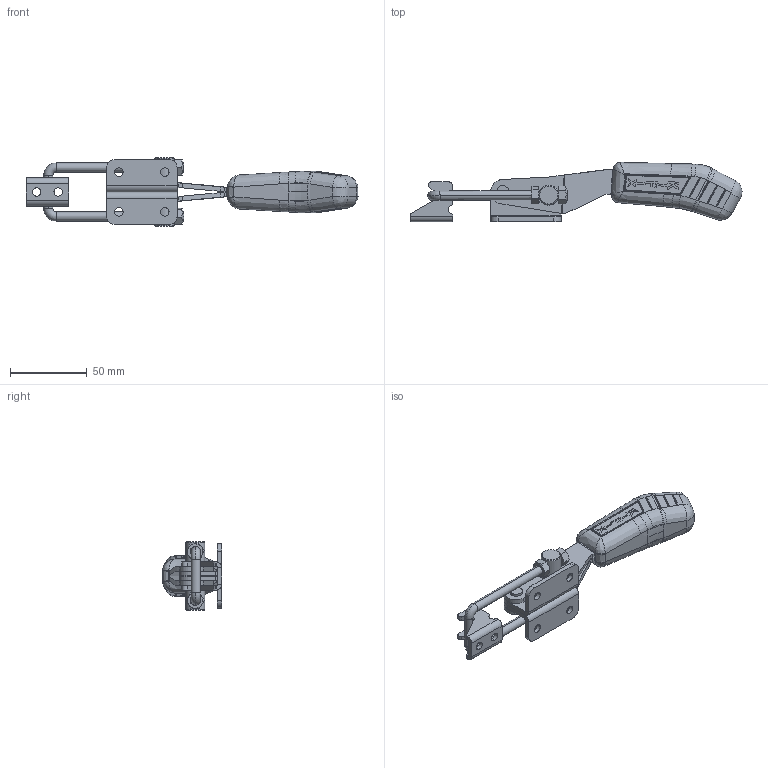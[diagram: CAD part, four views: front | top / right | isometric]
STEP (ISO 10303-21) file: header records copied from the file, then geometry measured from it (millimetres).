
FILE_DESCRIPTION (( 'STEP AP203' ), '1' );
FILE_NAME ('KF-843 D.STEP', '2014-08-20T20:49:29', ( 'Ricardo' ), ( '' ), 'SwSTEP 2.0', 'SolidWorks 2013', '' );
FILE_SCHEMA (( 'CONFIG_CONTROL_DESIGN' ));
Length unit declared in the file: millimetre
Products named in the file (12): 15.10028; 03.20020; 02.12043_Direita; 11.50015; 02.12043_Esquerda; 11.50001; 01.10054_Direita; 07.60001; 01.10054_Esquerda; 06.50023; KF-843 D; 16.20115
Assembly tree (13 placements, depth 2):
  KF-843 D
    02.12043_Direita
    02.12043_Esquerda
    01.10054_Direita
    01.10054_Esquerda
    16.20115
    15.10028
    03.20020
    11.50015  x2
    11.50001  x2
    07.60001
    06.50023
Bounding box: 216.88 x 38.72 x 45 mm (x, y, z)
Volume: 81875.7 mm3; surface area: 40697.6 mm2
Topology: 13 solids, 13 shells, 626 faces, 1573 edges, 983 vertices
Faces by surface type: plane 252, cylinder 173, bspline 130, cone 62, torus 9
Entity records: 22602 total; most frequent: CARTESIAN_POINT 8752, ORIENTED_EDGE 2930, DIRECTION 2131, EDGE_CURVE 1465, VERTEX_POINT 923, AXIS2_PLACEMENT_3D 764, EDGE_LOOP 632, LINE 603
